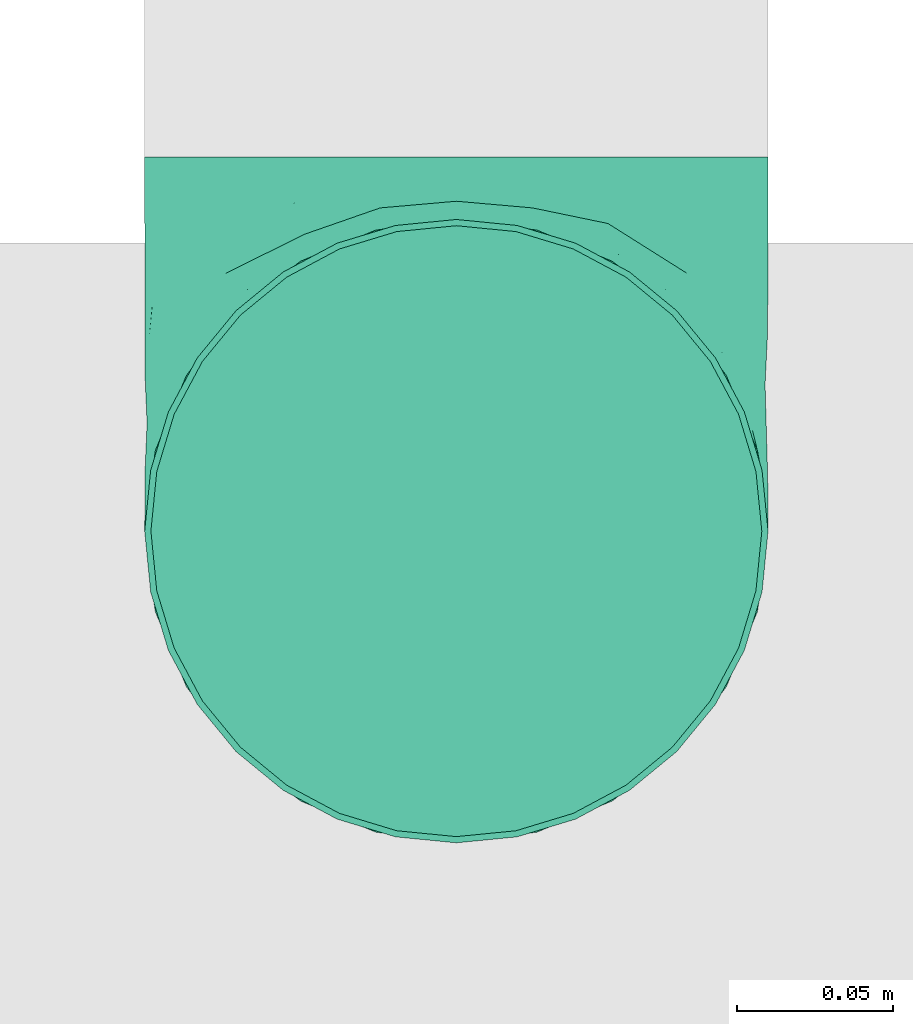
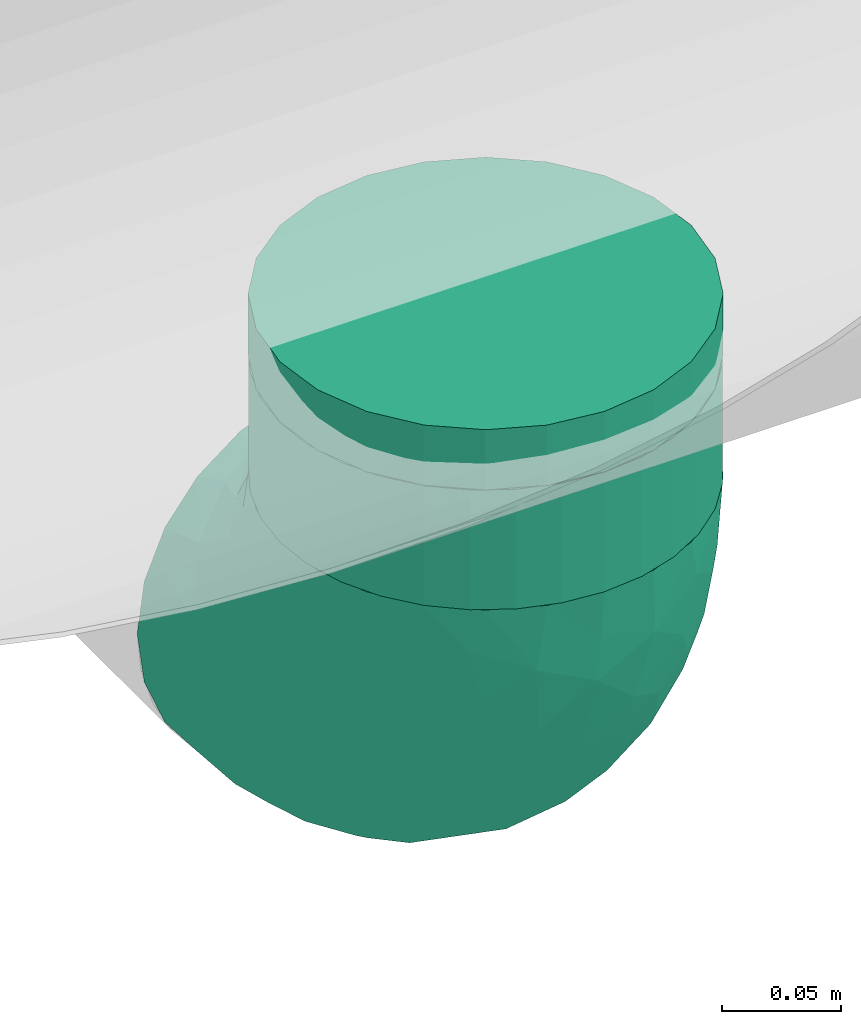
# One storey, part 17 of 36: 2 flow fittings, 1 flow segment.
"""IFC2X3 building model written with IfcOpenShell, lengths in millimetres."""

from ifc_helpers import new_model, entity, si_unit, converted_unit, derived_unit, direction, frame, origin_with_axes, origin_2d_with_axis, place, context, subcontext, project, spatial, hollow_circle, extrude, open_shell, surface_model, source, transform, mapped, type_object, element, save


model = new_model("IFC2X3")

# Units and contexts
model_context = context("Model", 3, precision=0.01, world=frame((0.0, 4.29681676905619e-09, 0.0)), true_north=direction((4.01073788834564e-13, 1.0)))
plan_context = context("Plan", 3, precision=0.01, world=frame((0.0, 4.29681676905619e-09, 0.0)), true_north=direction((4.01073788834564e-13, 1.0)))
body_context = subcontext(model_context, "Body", "Model", "MODEL_VIEW")
ifc_project = project(units=[converted_unit("PLANEANGLEUNIT", "DEGREE", entity("IfcPositiveLengthMeasure", 0.0174532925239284), si_unit("PLANEANGLEUNIT", "RADIAN"), dimensions=[0, 0, 0, 0, 0, 0, 0]), si_unit("AREAUNIT", "SQUARE_METRE"), si_unit("LENGTHUNIT", "METRE", prefix="MILLI"), si_unit("MASSUNIT", "GRAM", prefix="KILO"), si_unit("POWERUNIT", "WATT"), si_unit("PRESSUREUNIT", "PASCAL"), si_unit("FORCEUNIT", "NEWTON", prefix="KILO"), si_unit("ELECTRICCURRENTUNIT", "AMPERE"), si_unit("THERMODYNAMICTEMPERATUREUNIT", "DEGREE_CELSIUS"), si_unit("TIMEUNIT", "SECOND"), si_unit("VOLUMEUNIT", "CUBIC_METRE"), derived_unit("LINEARVELOCITYUNIT", [(si_unit("LENGTHUNIT", "METRE"), 1), (si_unit("TIMEUNIT", "SECOND"), -1)]), derived_unit("VOLUMETRICFLOWRATEUNIT", [(si_unit("VOLUMEUNIT", "CUBIC_METRE"), 1), (si_unit("TIMEUNIT", "SECOND"), -1)]), derived_unit("THERMALTRANSMITTANCEUNIT", [(si_unit("POWERUNIT", "WATT"), 1), (si_unit("THERMODYNAMICTEMPERATUREUNIT", "KELVIN"), -1), (si_unit("AREAUNIT", "SQUARE_METRE"), -1)])], contexts=[model_context, plan_context])

# Site, building, storey
site_placement = place(None, frame((0.0, -4.29681676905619e-09, 0.0), z_axis=(0.0, 0.0, 1.0), x_axis=(1.0, 0.0, 0.0)))
site = spatial("IfcSite", under=ifc_project, at=site_placement, CompositionType="ELEMENT")
building_placement = place(site_placement, frame((0.0, 4.29681676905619e-09, 0.0), z_axis=(0.0, 0.0, 1.0), x_axis=(1.0, 0.0, 0.0)))
building = spatial("IfcBuilding", under=site, at=building_placement, Name="mc-building", CompositionType="ELEMENT")
storey_placement = place(building_placement, frame((0.0, 0.0, 204000.0), z_axis=(0.0, 0.0, 1.0), x_axis=(1.0, 0.0, 0.0)))
storey = spatial("IfcBuildingStorey", under=building, at=storey_placement, Name="Nivå D", CompositionType="ELEMENT", Elevation=204000.0)

# Flow fittings
duct_fitting_type_1 = type_object("IfcDuctFittingType", Name="magicirc_elbow_short_001", PredefinedType="BEND")
shared_shape_1 = source(origin_with_axes(), body_context, "Body", "SurfaceModel", [
    surface_model("IfcShellBasedSurfaceModel", [(-120.0, 50.0, -86.60254), (-120.0, 25.8819, -96.59259), (-120.0, 70.71068, -70.71068), (-120.0, 96.59259, -25.8819), (-120.0, 86.60254, -50.0), (-120.0, -50.0, -86.60254), (-120.0, -70.71068, -70.71068), (-120.0, -25.8819, -96.59259), (-120.0, 0.0, -100.0), (-120.0, -96.59259, -25.8819), (-120.0, -100.0, 0.0), (-120.0, -86.60254, -50.0), (-120.0, 96.59259, 25.8819), (-120.0, -70.71068, 70.71068), (-120.0, -50.0, 86.60254), (-120.0, -86.60254, 50.0), (-120.0, -96.59259, 25.8819), (-120.0, -25.8819, 96.59259), (-120.0, 0.0, 100.0), (-120.0, 25.8819, 96.59259), (-25.8819, 120.0, -96.59259), (70.71068, 120.0, -70.71068), (0.0, 120.0, -100.0), (-70.71068, 120.0, -70.71068), (-50.0, 120.0, -86.60254), (-86.60254, 120.0, -50.0), (-96.59259, 120.0, -25.8819), (25.8819, 120.0, -96.59259), (50.0, 120.0, -86.60254), (86.60254, 120.0, -50.0), (100.0, 120.0, 0.0), (96.59259, 120.0, -25.8819), (-96.59259, 120.0, 25.8819), (86.60254, 120.0, 50.0), (50.0, 120.0, 86.60254), (70.71068, 120.0, 70.71068), (96.59259, 120.0, 25.8819), (-25.8819, 120.0, 96.59259), (0.0, 120.0, 100.0), (25.8819, 120.0, 96.59259), (-100.0, 120.0, 0.0), (-50.0, 120.0, 86.60254), (-70.71068, 120.0, 70.71068), (-57.47657, 95.22229, 84.95805), (-85.33946, -92.96309, 28.79275), (-95.20929, -97.20676, 0.0), (-84.48473, -65.01559, 72.95431), (-52.96075, -70.60035, 57.16979), (-58.29219, -58.77958, 72.2572), (-71.0454, -94.48414, 0.0), (-33.46621, 86.30074, 96.24781), (-7.45333, 88.76819, 99.94878), (-26.53059, -25.83103, 84.66541), (5.23459, -24.1841, 70.44192), (-1.23107, 1.23105, 87.74618), (-103.71213, 103.71213, 24.44784), (-95.28171, 98.70414, 48.64074), (-78.83961, -43.63421, 87.3226), (48.45058, -8.12007, 40.03254), (39.62941, -27.51041, 22.8702), (55.13075, -9.11298, 21.86769), (27.15427, -27.15428, 47.29752), (-0.9865, -46.35038, 53.41318), (-49.25997, -85.42957, 23.21428), (-69.41482, -80.94006, 48.93369), (34.63169, 2.36241, 66.9375), (-59.03727, -17.74459, 95.19283), (-92.36993, -18.34983, 97.75252), (-98.24586, -81.70799, 55.95793), (-87.21661, 7.38787, 99.96319), (-79.82304, 33.86298, 96.83649), (-103.25245, 34.36931, 94.48617), (-49.8635, 16.95363, 99.89181), (-120.0, 50.0, 86.60254), (-93.99414, 57.52782, 85.21417), (-13.524, 31.6217, 98.29715), (-30.34675, -2.85909, 94.71053), (-120.0, 70.71068, 70.71068), (-102.74619, 77.59979, 67.01377), (-120.0, 86.60254, 50.0), (-105.2102, 88.7141, 52.03645), (-120.0, 100.0, 0.0), (94.48414, 71.0454, 0.0), (92.96309, 85.33946, 28.79275), (85.42957, 49.25997, 23.21428), (18.34983, 92.36993, 97.75252), (-37.44754, -44.66633, 76.66985), (-66.8783, 56.54931, 92.80405), (65.01559, 84.48473, 72.95431), (43.6342, 78.83961, 87.3226), (37.67702, 38.38344, 81.78155), (58.58205, 33.30331, 61.93165), (58.77958, 58.29217, 72.2572), (14.52663, -47.57763, 31.54394), (81.70799, 98.24586, 55.95793), (97.20676, 95.20929, 0.0), (75.2275, 38.8764, 40.54554), (80.94006, 69.41482, 48.93369), (-19.32309, 64.21329, 99.87988), (-105.85786, 105.85786, 0.0), (17.74458, 59.03726, 95.19283), (70.60036, 52.96074, 57.16978), (-82.76473, 82.76473, 73.92657), (-77.59979, 102.74619, 67.01377), (-38.87641, -75.2275, 40.54555), (-40.86148, 50.04827, 98.96107), (-86.60254, 120.0, 50.0), (-25.82378, -76.70765, 19.45345), (-49.50418, 71.23352, 93.94065), (-57.3172, 35.12243, 98.9453), (65.10804, 3.68891, 0.0), (65.80674, 11.30259, 30.40508), (15.01777, 28.10412, 90.12797), (-0.1518, 65.0789, 99.29745), (-47.79548, -86.34864, 0.0), (-67.45496, 75.91085, 85.7741), (-3.68891, -65.10804, 0.0), (17.16776, -52.00293, 0.0), (-11.30259, -65.80674, 30.40508), (-24.54558, -78.21315, 0.0), (76.76895, 27.91333, 23.28633), (86.34864, 47.79548, 0.0), (58.40844, 13.74403, 48.13414), (52.00293, -17.16776, 0.0), (20.33542, 8.19535, 80.42602), (-51.11653, -33.50476, 87.58865), (-33.30333, -58.58206, 61.93166), (-17.26255, -60.80757, 47.57586), (78.21315, 24.54558, 0.0), (34.58534, -34.58534, 0.0), (-86.30074, 33.4662, -96.24781), (-34.36932, 103.25245, -94.48617), (-11.30259, -65.80673, -30.40508), (9.11298, -55.13075, -21.86769), (-98.24586, -81.70799, -55.95793), (-88.7682, 7.45333, -99.94878), (43.63421, 78.83961, -87.3226), (-98.70414, 95.28171, -48.64074), (-82.76473, 82.76473, -73.92657), (-102.74619, 77.59979, -67.01377), (85.42957, 49.25997, -23.21428), (75.22749, 38.8764, -40.54555), (80.94006, 69.41482, -48.93369), (27.15427, -27.15428, -47.29753), (47.57763, -14.52663, -31.54396), (27.51041, -39.62941, -22.8702), (-71.23352, 49.50417, -93.94066), (-56.54932, 66.8783, -92.80405), (-50.04827, 40.86148, -98.96107), (-33.86298, 79.82303, -96.83649), (-57.52782, 93.99414, -85.21417), (-16.95364, 49.8635, -99.89182), (-31.6217, 13.52399, -98.29715), (-85.33946, -92.96309, -28.79275), (24.18408, -5.23461, -70.44192), (46.35038, 0.9865, -53.41318), (65.01559, 84.48472, -72.95431), (-84.48473, -65.01559, -72.95431), (-78.83961, -43.63421, -87.3226), (-103.71213, 103.71213, -24.44784), (-95.22229, 57.47657, -84.95805), (-49.25997, -85.42957, -23.21428), (-92.36993, -18.34984, -97.75252), (-38.87641, -75.2275, -40.54555), (-69.41482, -80.94006, -48.93369), (-88.7141, 105.2102, -52.03645), (-7.38786, 87.21659, -99.96319), (17.74459, 59.03726, -95.19283), (-33.30333, -58.58206, -61.93166), (-52.96075, -70.60035, -57.16979), (-77.59979, 102.74619, -67.01377), (-38.38346, -37.67703, -81.78155), (-2.36242, -34.6317, -66.93751), (18.34983, 92.36993, -97.75252), (81.70799, 98.24586, -55.95793), (8.12006, -48.45058, -40.03254), (-1.23106, 1.23105, -87.74618), (25.83103, 26.53058, -84.6654), (92.96309, 85.33946, -28.79275), (76.70765, 25.82378, -19.45345), (-59.03727, -17.74459, -95.19283), (2.8591, 30.34673, -94.71053), (-64.21329, 19.32309, -99.87988), (58.77958, 58.29219, -72.2572), (70.60035, 52.96075, -57.16979), (-58.29219, -58.77958, -72.2572), (-35.12244, 57.3172, -98.9453), (44.66633, 37.44754, -76.66985), (-28.10413, -15.01778, -90.12797), (-65.07891, 0.1518, -99.29745), (-75.91086, 67.45496, -85.7741), (-27.91333, -76.76895, -23.28633), (-13.74403, -58.40844, -48.13415), (65.80673, 11.30258, -30.40508), (-8.19536, -20.33543, -80.42602), (33.50476, 51.11653, -87.58865), (58.58205, 33.30333, -61.93166), (60.80757, 17.26255, -47.57586)], [open_shell([[[0, 1, 2]], [[3, 4, 2]], [[5, 6, 7]], [[6, 8, 7]], [[9, 10, 11]], [[11, 10, 3]], [[10, 12, 3]], [[13, 14, 15]], [[16, 15, 14]], [[17, 18, 19]], [[20, 21, 22]], [[23, 20, 24]], [[23, 25, 26]], [[27, 21, 28]], [[27, 22, 21]], [[29, 30, 31]], [[21, 20, 29]], [[26, 30, 29]], [[26, 32, 30]], [[33, 34, 35]], [[34, 33, 36]], [[37, 38, 39]], [[32, 26, 40]], [[41, 42, 43]], [[44, 16, 45]], [[44, 15, 16]], [[46, 47, 48]], [[45, 49, 44]], [[37, 50, 51]], [[52, 53, 54]], [[55, 56, 32]], [[14, 46, 57]], [[58, 59, 60]], [[61, 53, 62]], [[44, 63, 64]], [[14, 13, 46]], [[53, 61, 65]], [[57, 66, 67]], [[18, 17, 67]], [[68, 13, 15]], [[69, 70, 71]], [[70, 69, 72]], [[73, 71, 74]], [[75, 72, 76]], [[77, 78, 79]], [[80, 12, 79]], [[78, 80, 79]], [[81, 12, 55]], [[82, 83, 84]], [[73, 74, 77]], [[41, 43, 50]], [[39, 38, 85]], [[48, 86, 57]], [[17, 14, 57]], [[70, 87, 74]], [[88, 35, 34]], [[85, 89, 39]], [[55, 12, 80]], [[34, 39, 89]], [[90, 91, 92]], [[83, 36, 33]], [[61, 93, 59]], [[89, 88, 34]], [[35, 94, 33]], [[83, 95, 36]], [[96, 84, 97]], [[19, 71, 73]], [[98, 51, 50]], [[99, 81, 55]], [[90, 89, 100]], [[99, 55, 40]], [[91, 96, 101]], [[102, 103, 56]], [[63, 104, 64]], [[105, 72, 75]], [[56, 106, 32]], [[42, 106, 103]], [[19, 18, 69]], [[107, 104, 63]], [[108, 87, 105]], [[50, 37, 41]], [[51, 38, 37]], [[91, 90, 65]], [[109, 72, 105]], [[110, 111, 60]], [[69, 66, 72]], [[67, 69, 18]], [[76, 66, 52]], [[70, 109, 87]], [[78, 74, 102]], [[112, 75, 54]], [[113, 51, 98]], [[63, 49, 114]], [[68, 44, 64]], [[94, 83, 33]], [[84, 83, 97]], [[103, 43, 42]], [[115, 87, 108]], [[108, 98, 50]], [[51, 113, 85]], [[101, 92, 91]], [[94, 88, 97]], [[68, 46, 13]], [[47, 64, 104]], [[116, 117, 118]], [[63, 119, 107]], [[107, 116, 118]], [[62, 93, 61]], [[96, 111, 120]], [[84, 121, 82]], [[65, 58, 122]], [[60, 123, 110]], [[100, 112, 90]], [[61, 59, 58]], [[124, 90, 112]], [[65, 124, 53]], [[54, 76, 52]], [[53, 86, 62]], [[52, 125, 86]], [[53, 52, 86]], [[98, 108, 105]], [[74, 87, 115]], [[51, 85, 38]], [[89, 85, 100]], [[57, 67, 17]], [[69, 67, 66]], [[56, 103, 106]], [[103, 102, 115]], [[74, 78, 77]], [[80, 102, 56]], [[126, 127, 62]], [[62, 127, 93]], [[84, 128, 121]], [[93, 129, 59]], [[110, 120, 111]], [[58, 60, 111]], [[122, 58, 111]], [[65, 61, 58]], [[75, 76, 54]], [[72, 66, 76]], [[105, 75, 98]], [[113, 75, 100]], [[50, 43, 108]], [[43, 103, 115]], [[43, 115, 108]], [[74, 115, 102]], [[127, 104, 118]], [[104, 127, 47]], [[48, 47, 126]], [[46, 64, 47]], [[86, 48, 126]], [[57, 46, 48]], [[86, 126, 62]], [[52, 66, 125]], [[66, 57, 125]], [[57, 86, 125]], [[101, 96, 97]], [[122, 96, 91]], [[97, 88, 101]], [[92, 101, 88]], [[88, 89, 92]], [[90, 92, 89]], [[96, 122, 111]], [[65, 122, 91]], [[75, 113, 98]], [[85, 113, 100]], [[59, 123, 60]], [[84, 96, 120]], [[75, 112, 100]], [[120, 110, 128]], [[124, 112, 54]], [[53, 124, 54]], [[90, 124, 65]], [[102, 80, 78]], [[80, 56, 55]], [[16, 10, 45]], [[95, 83, 82]], [[95, 30, 36]], [[40, 55, 32]], [[69, 71, 19]], [[74, 71, 70]], [[44, 68, 15]], [[46, 68, 64]], [[88, 94, 35]], [[83, 94, 97]], [[87, 109, 105]], [[70, 72, 109]], [[49, 63, 44]], [[114, 119, 63]], [[104, 107, 118]], [[107, 119, 116]], [[117, 93, 118]], [[127, 126, 47]], [[93, 127, 118]], [[129, 93, 117]], [[129, 123, 59]], [[128, 84, 120]], [[0, 130, 1]], [[20, 131, 24]], [[132, 133, 116]], [[6, 134, 11]], [[1, 135, 8]], [[27, 28, 136]], [[137, 138, 139]], [[140, 141, 142]], [[4, 139, 2]], [[143, 144, 145]], [[4, 3, 137]], [[146, 147, 148]], [[149, 147, 150]], [[148, 151, 152]], [[11, 153, 9]], [[143, 154, 155]], [[153, 45, 9]], [[28, 21, 156]], [[157, 5, 158]], [[159, 137, 3]], [[6, 5, 157]], [[5, 7, 158]], [[0, 2, 160]], [[31, 30, 95]], [[49, 153, 161]], [[7, 162, 158]], [[163, 161, 164]], [[165, 26, 25]], [[81, 99, 159]], [[166, 167, 151]], [[40, 26, 159]], [[168, 163, 169]], [[25, 170, 165]], [[20, 22, 166]], [[168, 171, 172]], [[23, 170, 25]], [[149, 131, 166]], [[160, 130, 0]], [[149, 166, 151]], [[136, 167, 173]], [[174, 21, 29]], [[23, 24, 150]], [[24, 131, 150]], [[27, 173, 22]], [[136, 28, 156]], [[154, 143, 172]], [[1, 130, 135]], [[133, 175, 145]], [[154, 176, 177]], [[7, 8, 162]], [[140, 142, 178]], [[179, 141, 140]], [[95, 82, 178]], [[31, 95, 178]], [[171, 158, 180]], [[152, 151, 181]], [[182, 135, 130]], [[183, 156, 184]], [[171, 168, 185]], [[178, 29, 31]], [[173, 166, 22]], [[159, 3, 81]], [[149, 151, 186]], [[183, 187, 136]], [[181, 167, 177]], [[149, 186, 147]], [[170, 150, 138]], [[188, 152, 176]], [[189, 135, 182]], [[134, 153, 11]], [[161, 153, 164]], [[140, 82, 121]], [[174, 178, 142]], [[139, 160, 2]], [[190, 147, 146]], [[146, 182, 130]], [[135, 189, 162]], [[169, 185, 168]], [[134, 157, 164]], [[174, 156, 21]], [[184, 142, 141]], [[163, 132, 191]], [[161, 114, 49]], [[172, 175, 192]], [[133, 117, 116]], [[110, 123, 193]], [[140, 128, 179]], [[179, 110, 193]], [[155, 144, 143]], [[180, 188, 171]], [[143, 145, 175]], [[194, 171, 188]], [[172, 194, 154]], [[176, 181, 177]], [[154, 187, 155]], [[177, 195, 187]], [[154, 177, 187]], [[182, 146, 148]], [[150, 147, 190]], [[135, 162, 8]], [[158, 162, 180]], [[136, 173, 27]], [[166, 173, 167]], [[137, 139, 4]], [[139, 138, 190]], [[150, 170, 23]], [[165, 138, 137]], [[196, 197, 155]], [[155, 197, 144]], [[197, 196, 184]], [[144, 129, 145]], [[116, 191, 132]], [[175, 133, 132]], [[192, 175, 132]], [[172, 143, 175]], [[152, 181, 176]], [[151, 167, 181]], [[148, 152, 182]], [[189, 152, 180]], [[130, 160, 146]], [[160, 139, 190]], [[160, 190, 146]], [[150, 190, 138]], [[169, 163, 164]], [[192, 163, 168]], [[164, 157, 169]], [[185, 169, 157]], [[157, 158, 185]], [[171, 185, 158]], [[197, 141, 193]], [[141, 197, 184]], [[183, 184, 196]], [[156, 142, 184]], [[187, 183, 196]], [[136, 156, 183]], [[187, 196, 155]], [[177, 167, 195]], [[167, 136, 195]], [[136, 187, 195]], [[163, 192, 132]], [[172, 192, 168]], [[152, 189, 182]], [[162, 189, 180]], [[145, 117, 133]], [[161, 163, 191]], [[152, 188, 180]], [[191, 116, 119]], [[194, 188, 176]], [[154, 194, 176]], [[171, 194, 172]], [[138, 165, 170]], [[165, 137, 159]], [[45, 153, 49]], [[45, 10, 9]], [[40, 159, 99]], [[159, 26, 165]], [[166, 131, 20]], [[150, 131, 149]], [[178, 174, 29]], [[156, 174, 142]], [[157, 134, 6]], [[153, 134, 164]], [[147, 186, 148]], [[161, 119, 114]], [[82, 140, 178]], [[121, 128, 140]], [[141, 179, 193]], [[179, 128, 110]], [[123, 144, 193]], [[144, 197, 193]], [[129, 144, 123]], [[129, 117, 145]], [[119, 161, 191]], [[8, 6, 1]], [[1, 3, 2]], [[3, 1, 11]], [[11, 1, 6]], [[19, 12, 10]], [[79, 12, 77]], [[12, 19, 73]], [[77, 12, 73]], [[17, 19, 10]], [[14, 17, 16]], [[16, 17, 10]], [[12, 81, 3]], [[23, 26, 20]], [[29, 20, 26]], [[32, 37, 30]], [[42, 32, 106]], [[41, 37, 32]], [[41, 32, 42]], [[30, 37, 39]], [[36, 39, 34]], [[30, 39, 36]], [[186, 151, 148]]])]),
])
flow_fitting_1_placement = place(storey_placement, frame((525696.54715, 414286.8494, 2580.0), z_axis=(-1.0, 0.0, 0.0), x_axis=(0.0, -1.0, 0.0)))
element("IfcFlowFitting", 1, at=flow_fitting_1_placement, inside=storey, type_object=duct_fitting_type_1, Name="magicirc_elbow_short_001", context=body_context, shape_type="MappedRepresentation", body=[
    mapped(shared_shape_1, transform((0.0, 0.0, 0.0), scale=1.0)),
])
duct_fitting_type_2 = type_object("IfcDuctFittingType", Name="magicirc_tapoutlet_001", PredefinedType="CONNECTOR")
shared_shape_2 = source(origin_with_axes(), body_context, "Body", "SurfaceModel", [
    surface_model("IfcShellBasedSurfaceModel", [(-6.096, 100.0, 0.0), (-6.096, 96.59259, -25.8819), (-6.096, 96.59259, 25.8819), (-6.096, -25.8819, -96.59259), (-6.096, -100.0, 0.0), (-6.096, 0.0, -100.0), (-6.096, -50.0, -86.60254), (-6.096, -70.71068, -70.71068), (-6.096, -86.60254, -50.0), (-6.096, 70.71068, -70.71068), (-6.096, 50.0, -86.60254), (-6.096, 25.8819, -96.59259), (-6.096, 86.60254, -50.0), (-6.096, -96.59259, -25.8819), (-6.096, -96.59259, 25.8819), (-6.096, -86.60254, 50.0), (-6.096, -70.71068, 70.71068), (-6.096, -25.8819, 96.59259), (-6.096, -50.0, 86.60254), (-6.096, 25.8819, 96.59259), (-6.096, 70.71068, 70.71068), (-6.096, 86.60254, 50.0), (-6.096, 50.0, 86.60254), (-6.096, 0.0, 100.0), (0.0, -25.8819, 96.59259), (0.0, 0.0, 100.0), (0.0, -50.0, 86.60254), (0.0, -70.71068, 70.71068), (0.0, -96.59259, 25.8819), (0.0, -86.60254, 50.0), (0.0, -100.0, 0.0), (0.0, -96.59259, -25.8819), (0.0, -86.60254, -50.0), (0.0, -70.71068, -70.71068), (0.0, 0.0, -100.0), (0.0, -25.8819, -96.59259), (0.0, -50.0, -86.60254), (0.0, 25.8819, -96.59259), (0.0, 50.0, -86.60254), (0.0, 70.71068, -70.71068), (0.0, 96.59259, -25.8819), (0.0, 86.60254, -50.0), (0.0, 100.0, 0.0), (0.0, 96.59259, 25.8819), (0.0, 86.60254, 50.0), (0.0, 70.71068, 70.71068), (0.0, 25.8819, 96.59259), (0.0, 50.0, 86.60254), (25.0, 0.0, -100.0), (25.0, 25.8819, -96.59259), (25.0, -25.8819, -96.59259), (25.0, -96.59259, 25.8819), (25.0, -50.0, -86.60254), (25.0, -86.60254, -50.0), (25.0, -70.71068, -70.71068), (25.0, 100.0, 0.0), (25.0, 96.59259, 25.8819), (25.0, 70.71068, -70.71068), (25.0, 50.0, -86.60254), (25.0, 96.59259, -25.8819), (25.0, 86.60254, -50.0), (25.0, -96.59259, -25.8819), (25.0, -86.60254, 50.0), (25.0, -70.71068, 70.71068), (25.0, -50.0, 86.60254), (25.0, -25.8819, 96.59259), (25.0, 0.0, 100.0), (25.0, 86.60254, 50.0), (25.0, 70.71068, 70.71068), (25.0, 25.8819, 96.59259), (25.0, 50.0, 86.60254), (25.0, -100.0, 0.0)], [open_shell([[[0, 1, 2]], [[3, 4, 5]], [[6, 4, 3]], [[4, 7, 8]], [[4, 6, 7]], [[9, 5, 2]], [[5, 10, 11]], [[5, 9, 10]], [[12, 2, 1]], [[2, 12, 9]], [[4, 8, 13]], [[14, 15, 5]], [[15, 16, 5]], [[17, 5, 18]], [[5, 16, 18]], [[5, 17, 19]], [[5, 20, 21]], [[2, 5, 21]], [[5, 22, 20]], [[19, 22, 5]], [[17, 23, 19]], [[14, 5, 4]], [[24, 25, 23]], [[26, 24, 17]], [[17, 24, 23]], [[16, 27, 18]], [[26, 17, 18]], [[26, 18, 27]], [[28, 29, 15]], [[30, 28, 14]], [[15, 29, 16]], [[28, 15, 14]], [[30, 14, 4]], [[27, 16, 29]], [[31, 30, 4]], [[32, 31, 13]], [[13, 31, 4]], [[7, 33, 8]], [[32, 13, 8]], [[32, 8, 33]], [[3, 34, 35]], [[6, 35, 36]], [[6, 36, 7]], [[34, 3, 5]], [[6, 3, 35]], [[33, 7, 36]], [[37, 34, 5]], [[38, 37, 11]], [[11, 37, 5]], [[9, 39, 10]], [[38, 11, 10]], [[38, 10, 39]], [[40, 41, 12]], [[42, 40, 1]], [[12, 41, 9]], [[40, 12, 1]], [[42, 1, 0]], [[39, 9, 41]], [[43, 42, 0]], [[44, 43, 2]], [[2, 43, 0]], [[20, 45, 21]], [[44, 2, 21]], [[44, 21, 45]], [[46, 47, 22]], [[25, 46, 19]], [[22, 47, 20]], [[46, 22, 19]], [[25, 19, 23]], [[45, 20, 47]], [[48, 49, 50]], [[50, 51, 52]], [[53, 54, 51]], [[51, 54, 52]], [[50, 55, 56]], [[57, 55, 58]], [[50, 49, 58]], [[59, 55, 60]], [[57, 60, 55]], [[58, 55, 50]], [[61, 53, 51]], [[62, 51, 50]], [[50, 63, 62]], [[64, 50, 65]], [[64, 63, 50]], [[66, 65, 50]], [[67, 68, 50]], [[50, 56, 67]], [[69, 66, 70]], [[50, 68, 70]], [[70, 66, 50]], [[71, 61, 51]], [[65, 66, 25]], [[64, 65, 24]], [[24, 65, 25]], [[27, 63, 26]], [[64, 24, 26]], [[64, 26, 63]], [[51, 62, 29]], [[71, 51, 28]], [[29, 62, 27]], [[51, 29, 28]], [[71, 28, 30]], [[63, 27, 62]], [[61, 71, 30]], [[53, 61, 31]], [[31, 61, 30]], [[33, 54, 32]], [[53, 31, 32]], [[53, 32, 54]], [[35, 48, 50]], [[36, 50, 52]], [[36, 52, 33]], [[48, 35, 34]], [[36, 35, 50]], [[54, 33, 52]], [[49, 48, 34]], [[58, 49, 37]], [[37, 49, 34]], [[39, 57, 38]], [[58, 37, 38]], [[58, 38, 57]], [[59, 60, 41]], [[55, 59, 40]], [[41, 60, 39]], [[59, 41, 40]], [[55, 40, 42]], [[57, 39, 60]], [[56, 55, 42]], [[67, 56, 43]], [[43, 56, 42]], [[45, 68, 44]], [[67, 43, 44]], [[67, 44, 68]], [[69, 70, 47]], [[66, 69, 46]], [[47, 70, 45]], [[69, 47, 46]], [[66, 46, 25]], [[68, 45, 70]], [[64, 62, 50]], [[63, 62, 64]], [[56, 67, 50]], [[66, 50, 70]]])]),
])
flow_fitting_2_placement = place(storey_placement, frame((525696.54715, 414286.8494, 2786.53833000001), z_axis=(0.0, 1.0, 0.0), x_axis=(0.0, 0.0, -1.0)))
element("IfcFlowFitting", 2, at=flow_fitting_2_placement, inside=storey, type_object=duct_fitting_type_2, Name="magicirc_tapoutlet_001", context=body_context, shape_type="MappedRepresentation", body=[
    mapped(shared_shape_2, transform((0.0, 0.0, 0.0), scale=1.0)),
])

# Flow segment
duct_segment_type = type_object("IfcDuctSegmentType", Name="KK001T - Spiro kanaler, Forsinket stål", PredefinedType="RIGIDSEGMENT")
shared_shape_3 = source(origin_with_axes(), body_context, "Body", "SweptSolid", [
    extrude(hollow_circle(Radius=100.0, WallThickness=2.0, at=origin_2d_with_axis()), frame((0.0, 0.0, 0.0), z_axis=(1.0, 0.0, 0.0), x_axis=(0.0, 1.0, 0.0)), (0.0, 0.0, 1.0), 61.5),
])
flow_segment_placement = place(storey_placement, frame((525696.54715, 414286.8494, 2700.0), z_axis=(0.0, 1.0, 0.0), x_axis=(0.0, 0.0, 1.0)))
element("IfcFlowSegment", 3, at=flow_segment_placement, inside=storey, type_object=duct_segment_type, Name="KK001T - Spiro kanaler, Forsinket stål", context=body_context, shape_type="MappedRepresentation", body=[
    mapped(shared_shape_3, transform((0.0, 0.0, 0.0), scale=1.0)),
])

save(model, "model.ifc")
